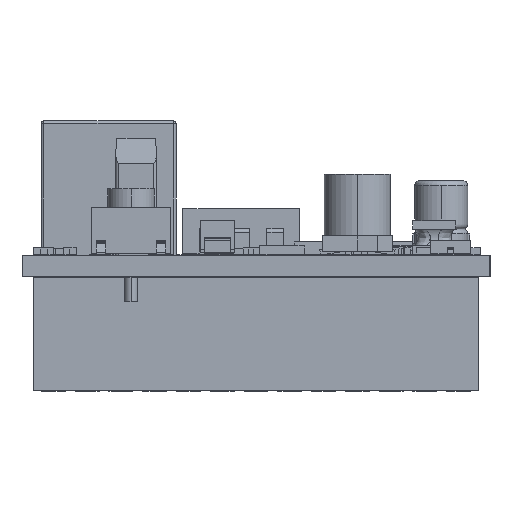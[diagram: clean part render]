
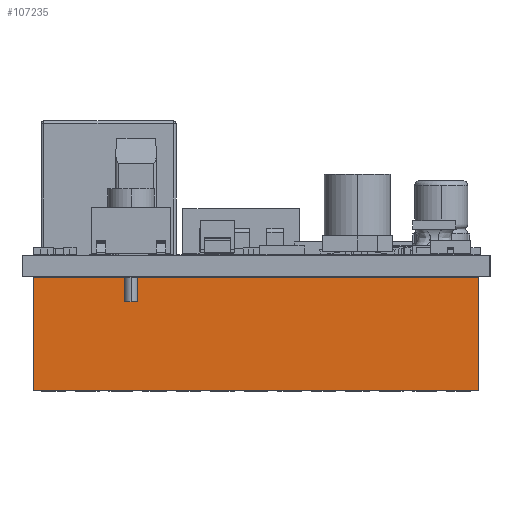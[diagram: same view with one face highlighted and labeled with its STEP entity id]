
A CAD part, left-side view. The second image highlights one B-rep face of the part: STEP entity #107235.
In plain terms, the highlighted planar face has unit normal (-1, 0, 0).
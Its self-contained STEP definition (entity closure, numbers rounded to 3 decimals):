
#107118=CARTESIAN_POINT('',(49.5,0.84,-9.4));
#107119=VERTEX_POINT('',#107118);
#107122=CARTESIAN_POINT('',(49.5,34.36,-9.4));
#107123=VERTEX_POINT('',#107122);
#107126=CARTESIAN_POINT('',(49.5,34.36,-0.9));
#107127=VERTEX_POINT('',#107126);
#107130=CARTESIAN_POINT('',(49.5,0.84,-0.9));
#107131=VERTEX_POINT('',#107130);
#107134=DIRECTION('',(0.,33.52,0.));
#107135=VECTOR('',#107134,1.);
#107136=LINE('',#107118,#107135);
#107140=DIRECTION('',(0.,0.,8.5));
#107141=VECTOR('',#107140,1.);
#107142=LINE('',#107122,#107141);
#107146=DIRECTION('',(0.,-33.52,0.));
#107147=VECTOR('',#107146,1.);
#107148=LINE('',#107126,#107147);
#107152=DIRECTION('',(0.,0.,-8.5));
#107153=VECTOR('',#107152,1.);
#107154=LINE('',#107130,#107153);
#107170=EDGE_CURVE('',#107119,#107123,#107136,.T.);
#107172=ORIENTED_EDGE('',*,*,#107170,.F.);
#107179=EDGE_CURVE('',#107123,#107127,#107142,.T.);
#107181=ORIENTED_EDGE('',*,*,#107179,.F.);
#107188=EDGE_CURVE('',#107127,#107131,#107148,.T.);
#107190=ORIENTED_EDGE('',*,*,#107188,.F.);
#107197=EDGE_CURVE('',#107131,#107119,#107154,.T.);
#107199=ORIENTED_EDGE('',*,*,#107197,.F.);
#107230=EDGE_LOOP('',(#107199,#107190,#107181,#107172));
#107231=FACE_OUTER_BOUND('',#107230,.T.);
#107232=DIRECTION('',(-5.,0.,0.));
#107233=AXIS2_PLACEMENT_3D('',#107118,#107232,$);
#107234=PLANE('',#107233);
#107235=ADVANCED_FACE('',(#107231),#107234,.T.);
